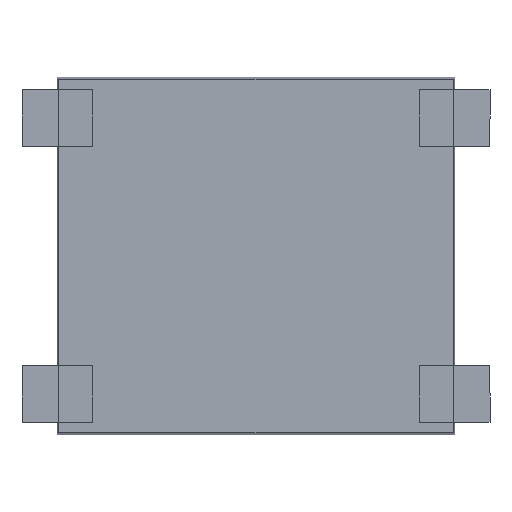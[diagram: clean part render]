
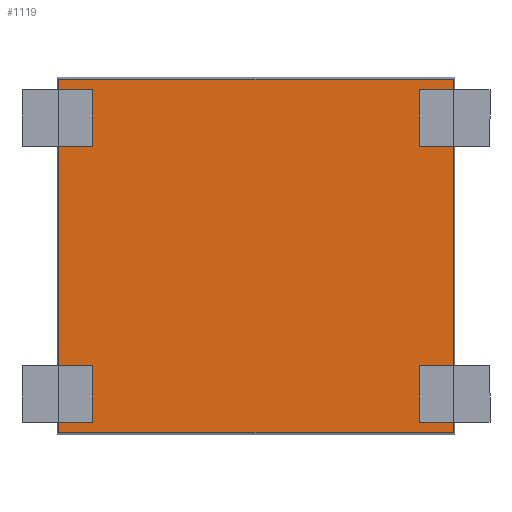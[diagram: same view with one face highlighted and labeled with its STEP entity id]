
A CAD part, front view. The second image highlights one B-rep face of the part: STEP entity #1119.
In plain terms, the highlighted planar face has unit normal (0, -1, 0).
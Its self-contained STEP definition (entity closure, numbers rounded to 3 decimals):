
#2 = CARTESIAN_POINT ( 'NONE',  ( -50., -0.23, 3.268 ) ) ;
#29 = LINE ( 'NONE', #2, #205 ) ;
#90 = VECTOR ( 'NONE', #768, 1000. ) ;
#205 = VECTOR ( 'NONE', #1193, 1000. ) ;
#301 = LINE ( 'NONE', #1496, #90 ) ;
#333 = VECTOR ( 'NONE', #928, 1000. ) ;
#336 = LINE ( 'NONE', #920, #333 ) ;
#508 = EDGE_CURVE ( 'NONE', #1421, #1214, #301, .T. ) ;
#703 = VERTEX_POINT ( 'NONE', #1442 ) ;
#768 = DIRECTION ( 'NONE',  ( 0., 0., 1. ) ) ;
#849 = EDGE_CURVE ( 'NONE', #703, #977, #1141, .T. ) ;
#920 = CARTESIAN_POINT ( 'NONE',  ( -50., -0.23, -3.268 ) ) ;
#928 = DIRECTION ( 'NONE',  ( 1., 0., 0. ) ) ;
#943 = AXIS2_PLACEMENT_3D ( 'NONE', #1638, #1363, #1062 ) ;
#971 = ORIENTED_EDGE ( 'NONE', *, *, #1168, .T. ) ;
#977 = VERTEX_POINT ( 'NONE', #1867 ) ;
#1062 = DIRECTION ( 'NONE',  ( 0., 0., 1. ) ) ;
#1119 = ADVANCED_FACE ( 'NONE', ( #1721 ), #1473, .F. ) ;
#1141 = LINE ( 'NONE', #1291, #1379 ) ;
#1168 = EDGE_CURVE ( 'NONE', #977, #1421, #336, .T. ) ;
#1193 = DIRECTION ( 'NONE',  ( 1., 0., 0. ) ) ;
#1214 = VERTEX_POINT ( 'NONE', #1835 ) ;
#1257 = ORIENTED_EDGE ( 'NONE', *, *, #508, .T. ) ;
#1291 = CARTESIAN_POINT ( 'NONE',  ( -3.643, -0.23, 3.3 ) ) ;
#1363 = DIRECTION ( 'NONE',  ( 0., 1., 0. ) ) ;
#1379 = VECTOR ( 'NONE', #1587, 1000. ) ;
#1421 = VERTEX_POINT ( 'NONE', #1755 ) ;
#1442 = CARTESIAN_POINT ( 'NONE',  ( -3.643, -0.23, 3.268 ) ) ;
#1473 = PLANE ( 'NONE',  #943 ) ;
#1496 = CARTESIAN_POINT ( 'NONE',  ( 3.643, -0.23, 3.3 ) ) ;
#1551 = EDGE_CURVE ( 'NONE', #703, #1214, #29, .T. ) ;
#1555 = EDGE_LOOP ( 'NONE', ( #1257, #1607, #1718, #971 ) ) ;
#1587 = DIRECTION ( 'NONE',  ( 0., 0., -1. ) ) ;
#1607 = ORIENTED_EDGE ( 'NONE', *, *, #1551, .F. ) ;
#1638 = CARTESIAN_POINT ( 'NONE',  ( -3.675, -0.23, 3.3 ) ) ;
#1718 = ORIENTED_EDGE ( 'NONE', *, *, #849, .T. ) ;
#1721 = FACE_OUTER_BOUND ( 'NONE', #1555, .T. ) ;
#1755 = CARTESIAN_POINT ( 'NONE',  ( 3.643, -0.23, -3.268 ) ) ;
#1835 = CARTESIAN_POINT ( 'NONE',  ( 3.643, -0.23, 3.268 ) ) ;
#1867 = CARTESIAN_POINT ( 'NONE',  ( -3.643, -0.23, -3.268 ) ) ;
